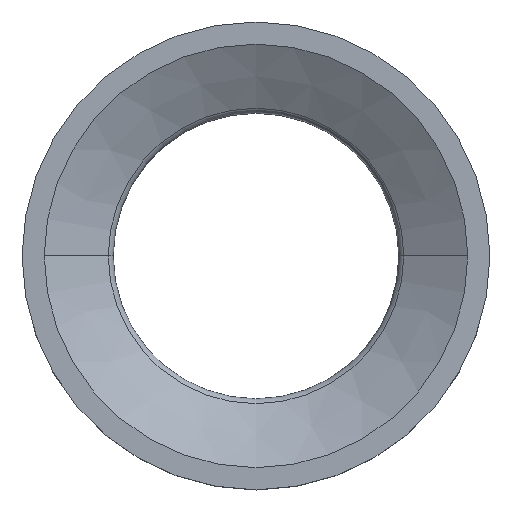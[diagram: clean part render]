
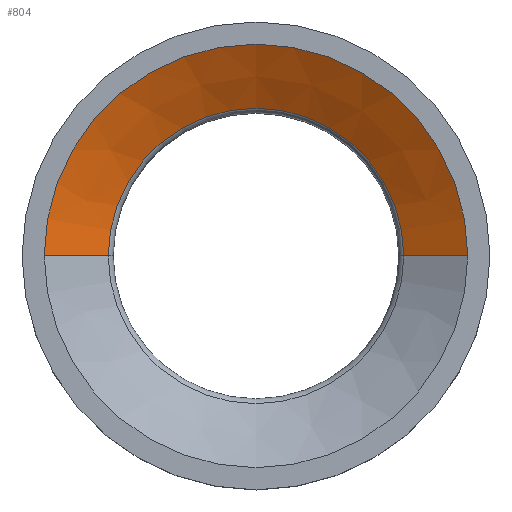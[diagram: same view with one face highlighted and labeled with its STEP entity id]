
A CAD part, top view. The second image highlights one B-rep face of the part: STEP entity #804.
In plain terms, the highlighted conical face has half-angle 60 degrees and reference radius 36.5 mm.
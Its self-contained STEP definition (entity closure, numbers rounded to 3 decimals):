
#112=DIRECTION('',(-0.866,0.,-0.5));
#113=VECTOR('',#112,15.011);
#114=CARTESIAN_POINT('',(43.,0.,24.));
#115=LINE('',#114,#113);
#116=CARTESIAN_POINT('',(0.,0.,16.494));
#117=DIRECTION('',(0.,0.,1.));
#118=DIRECTION('',(1.,0.,0.));
#119=AXIS2_PLACEMENT_3D('',#116,#117,#118);
#121=DIRECTION('',(0.866,0.,-0.5));
#122=VECTOR('',#121,15.011);
#123=CARTESIAN_POINT('',(-43.,0.,
24.));
#124=LINE('',#123,#122);
#140=CARTESIAN_POINT('',(0.,0.,24.));
#141=DIRECTION('',(0.,0.,-1.));
#142=DIRECTION('',(-1.,0.,0.));
#143=AXIS2_PLACEMENT_3D('',#140,#141,#142);
#519=CARTESIAN_POINT('',(43.,0.,
24.));
#520=CARTESIAN_POINT('',(-43.,0.,24.));
#521=VERTEX_POINT('',#519);
#522=VERTEX_POINT('',#520);
#527=CARTESIAN_POINT('',(-30.,0.,
16.494));
#528=CARTESIAN_POINT('',(30.,0.,16.494));
#529=VERTEX_POINT('',#527);
#530=VERTEX_POINT('',#528);
#792=CARTESIAN_POINT('',(0.,0.,20.247));
#793=DIRECTION('',(0.,0.,1.));
#794=DIRECTION('',(0.,-1.,0.));
#795=AXIS2_PLACEMENT_3D('',#792,#793,#794);
#796=CONICAL_SURFACE('',#795,36.5,60.);
#797=ORIENTED_EDGE('',*,*,#757,.T.);
#798=ORIENTED_EDGE('',*,*,#787,.F.);
#800=ORIENTED_EDGE('',*,*,#799,.T.);
#801=ORIENTED_EDGE('',*,*,#783,.T.);
#802=EDGE_LOOP('',(#797,#798,#800,#801));
#803=FACE_OUTER_BOUND('',#802,.F.);
#120=CIRCLE('',#119,30.);
#144=CIRCLE('',#143,43.);
#757=EDGE_CURVE('',#530,#529,#120,.T.);
#783=EDGE_CURVE('',#521,#530,#115,.T.);
#787=EDGE_CURVE('',#522,#529,#124,.T.);
#799=EDGE_CURVE('',#522,#521,#144,.T.);
#804=ADVANCED_FACE('',(#803),#796,.F.);
